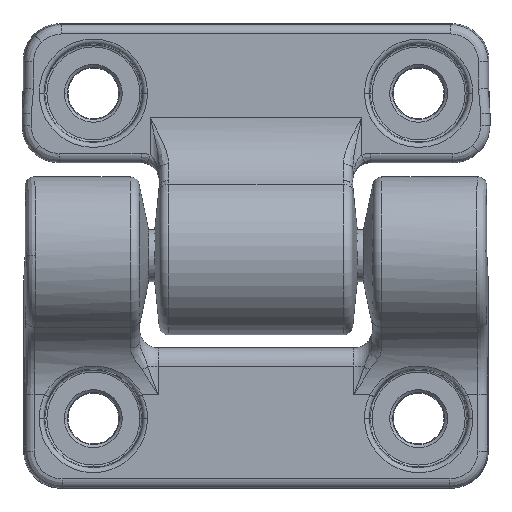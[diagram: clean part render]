
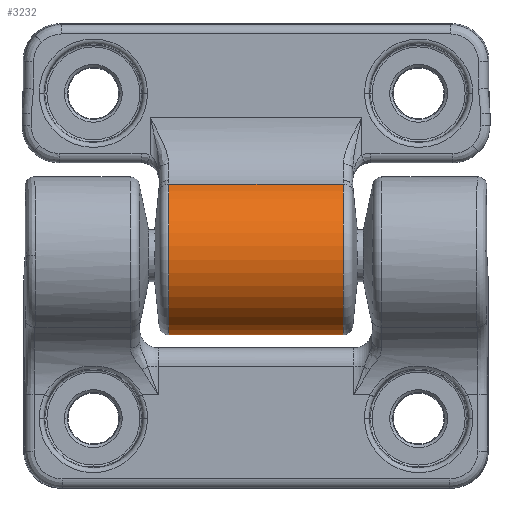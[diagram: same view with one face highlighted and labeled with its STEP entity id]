
A CAD part, top view. The second image highlights one B-rep face of the part: STEP entity #3232.
In plain terms, the highlighted cylindrical face has radius 8.5 mm (diameter 17 mm), a partial arc.
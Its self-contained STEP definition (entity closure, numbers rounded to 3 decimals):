
#609 = EDGE_CURVE ( 'NONE', #35605, #10379, #3704, .T. ) ;
#2306 = CARTESIAN_POINT ( 'NONE',  ( -9.413, 0., 0. ) ) ;
#2758 = LINE ( 'NONE', #16361, #43677 ) ;
#3232 = ADVANCED_FACE ( 'NONE', ( #20687 ), #25306, .T. ) ;
#3704 = CIRCLE ( 'NONE', #37909, 8.5 ) ;
#4026 = AXIS2_PLACEMENT_3D ( 'NONE', #38926, #17344, #8342 ) ;
#4356 = CARTESIAN_POINT ( 'NONE',  ( -9.413, -7.697, 3.606 ) ) ;
#8342 = DIRECTION ( 'NONE',  ( 0., 1., 0. ) ) ;
#8771 = LINE ( 'NONE', #35996, #22045 ) ;
#9590 = CARTESIAN_POINT ( 'NONE',  ( 9.413, 8.5, 0. ) ) ;
#10379 = VERTEX_POINT ( 'NONE', #4356 ) ;
#11480 = EDGE_CURVE ( 'NONE', #13246, #30979, #28681, .T. ) ;
#12163 = DIRECTION ( 'NONE',  ( 0., 1., 0. ) ) ;
#13223 = EDGE_CURVE ( 'NONE', #10379, #13246, #2758, .T. ) ;
#13246 = VERTEX_POINT ( 'NONE', #37786 ) ;
#16361 = CARTESIAN_POINT ( 'NONE',  ( 0., -7.697, 3.606 ) ) ;
#17344 = DIRECTION ( 'NONE',  ( 1., 0., 0. ) ) ;
#18511 = CARTESIAN_POINT ( 'NONE',  ( -9.413, 8.5, 0. ) ) ;
#20687 = FACE_OUTER_BOUND ( 'NONE', #30710, .T. ) ;
#22045 = VECTOR ( 'NONE', #22388, 1000. ) ;
#22388 = DIRECTION ( 'NONE',  ( 1., 0., 0. ) ) ;
#25306 = CYLINDRICAL_SURFACE ( 'NONE', #4026, 8.5 ) ;
#25476 = ORIENTED_EDGE ( 'NONE', *, *, #609, .T. ) ;
#26002 = CARTESIAN_POINT ( 'NONE',  ( 9.413, 0., 0. ) ) ;
#26956 = ORIENTED_EDGE ( 'NONE', *, *, #35501, .F. ) ;
#28681 = CIRCLE ( 'NONE', #40116, 8.5 ) ;
#29102 = DIRECTION ( 'NONE',  ( 1., 0., 0. ) ) ;
#30710 = EDGE_LOOP ( 'NONE', ( #26956, #25476, #31581, #38927 ) ) ;
#30979 = VERTEX_POINT ( 'NONE', #9590 ) ;
#31581 = ORIENTED_EDGE ( 'NONE', *, *, #13223, .T. ) ;
#32929 = DIRECTION ( 'NONE',  ( -1., 0., 0. ) ) ;
#35501 = EDGE_CURVE ( 'NONE', #35605, #30979, #8771, .T. ) ;
#35605 = VERTEX_POINT ( 'NONE', #18511 ) ;
#35996 = CARTESIAN_POINT ( 'NONE',  ( 0., 8.5, 0. ) ) ;
#37786 = CARTESIAN_POINT ( 'NONE',  ( 9.413, -7.697, 3.606 ) ) ;
#37909 = AXIS2_PLACEMENT_3D ( 'NONE', #2306, #39126, #38914 ) ;
#38914 = DIRECTION ( 'NONE',  ( 0., 1., 0. ) ) ;
#38926 = CARTESIAN_POINT ( 'NONE',  ( 0., 0., 0. ) ) ;
#38927 = ORIENTED_EDGE ( 'NONE', *, *, #11480, .T. ) ;
#39126 = DIRECTION ( 'NONE',  ( 1., 0., 0. ) ) ;
#40116 = AXIS2_PLACEMENT_3D ( 'NONE', #26002, #32929, #12163 ) ;
#43677 = VECTOR ( 'NONE', #29102, 1000. ) ;
